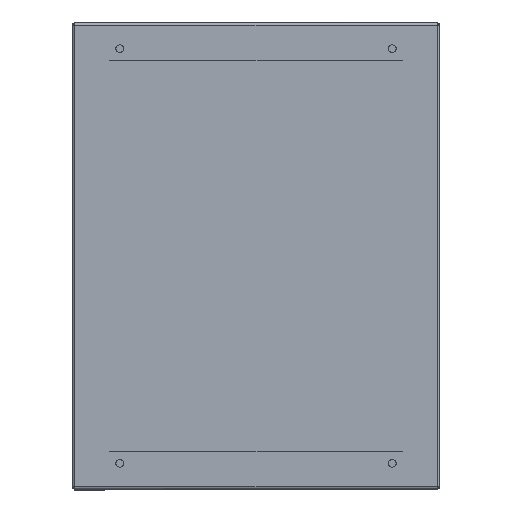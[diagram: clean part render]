
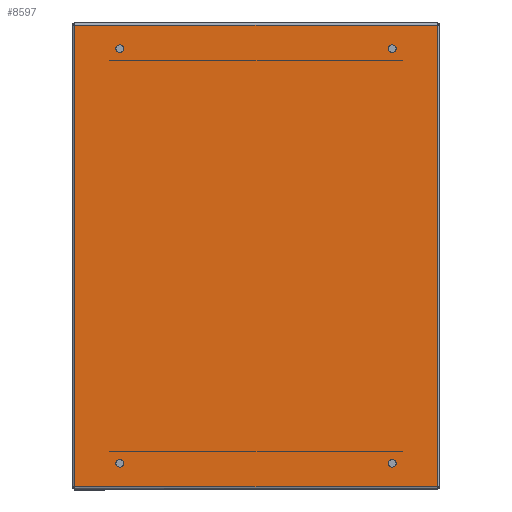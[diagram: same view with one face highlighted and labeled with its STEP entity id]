
A CAD part, front view. The second image highlights one B-rep face of the part: STEP entity #8597.
In plain terms, the highlighted planar face has unit normal (0, -1, 0).
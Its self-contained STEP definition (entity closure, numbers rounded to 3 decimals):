
#104 = EDGE_CURVE ( 'NONE', #5766, #7698, #6119, .T. ) ;
#111 = CARTESIAN_POINT ( 'NONE',  ( -153., 0., -194.7 ) ) ;
#202 = EDGE_LOOP ( 'NONE', ( #5607, #1297 ) ) ;
#265 = VERTEX_POINT ( 'NONE', #7462 ) ;
#296 = CARTESIAN_POINT ( 'NONE',  ( -118.25, 0., -175. ) ) ;
#309 = ORIENTED_EDGE ( 'NONE', *, *, #1028, .T. ) ;
#377 = CIRCLE ( 'NONE', #1368, 3.25 ) ;
#632 = CIRCLE ( 'NONE', #1597, 3.25 ) ;
#652 = DIRECTION ( 'NONE',  ( 0., 1., 0. ) ) ;
#761 = CARTESIAN_POINT ( 'NONE',  ( -111.75, 0., 175. ) ) ;
#1028 = EDGE_CURVE ( 'NONE', #10978, #5849, #2957, .T. ) ;
#1082 = EDGE_CURVE ( 'NONE', #7698, #5766, #632, .T. ) ;
#1092 = LINE ( 'NONE', #1419, #11186 ) ;
#1124 = EDGE_LOOP ( 'NONE', ( #3550, #3432 ) ) ;
#1255 = AXIS2_PLACEMENT_3D ( 'NONE', #11236, #1721, #3441 ) ;
#1273 = DIRECTION ( 'NONE',  ( -1., 0., 0. ) ) ;
#1297 = ORIENTED_EDGE ( 'NONE', *, *, #1082, .T. ) ;
#1368 = AXIS2_PLACEMENT_3D ( 'NONE', #1440, #6745, #4977 ) ;
#1380 = DIRECTION ( 'NONE',  ( -1., 0., 0. ) ) ;
#1419 = CARTESIAN_POINT ( 'NONE',  ( 153., 0., 194.7 ) ) ;
#1440 = CARTESIAN_POINT ( 'NONE',  ( 115., 0., -175. ) ) ;
#1552 = PLANE ( 'NONE',  #3714 ) ;
#1597 = AXIS2_PLACEMENT_3D ( 'NONE', #8875, #4330, #7091 ) ;
#1721 = DIRECTION ( 'NONE',  ( 0., 1., 0. ) ) ;
#1810 = VERTEX_POINT ( 'NONE', #4121 ) ;
#1957 = ORIENTED_EDGE ( 'NONE', *, *, #3666, .T. ) ;
#2023 = FACE_BOUND ( 'NONE', #202, .T. ) ;
#2106 = CIRCLE ( 'NONE', #5986, 3.25 ) ;
#2375 = ORIENTED_EDGE ( 'NONE', *, *, #8399, .T. ) ;
#2436 = DIRECTION ( 'NONE',  ( -1., 0., 0. ) ) ;
#2446 = DIRECTION ( 'NONE',  ( 0., 0., 1. ) ) ;
#2463 = CARTESIAN_POINT ( 'NONE',  ( -115., 0., -175. ) ) ;
#2957 = LINE ( 'NONE', #5987, #9910 ) ;
#3066 = DIRECTION ( 'NONE',  ( 1., 0., 0. ) ) ;
#3432 = ORIENTED_EDGE ( 'NONE', *, *, #5166, .T. ) ;
#3441 = DIRECTION ( 'NONE',  ( -1., 0., 0. ) ) ;
#3550 = ORIENTED_EDGE ( 'NONE', *, *, #11246, .T. ) ;
#3666 = EDGE_CURVE ( 'NONE', #9625, #8361, #7400, .T. ) ;
#3701 = VECTOR ( 'NONE', #4125, 1000. ) ;
#3714 = AXIS2_PLACEMENT_3D ( 'NONE', #7635, #4180, #2436 ) ;
#3904 = EDGE_LOOP ( 'NONE', ( #7824, #10591 ) ) ;
#3940 = EDGE_CURVE ( 'NONE', #8252, #8470, #2106, .T. ) ;
#4111 = DIRECTION ( 'NONE',  ( -1., 0., 0. ) ) ;
#4121 = CARTESIAN_POINT ( 'NONE',  ( 118.25, 0., 175. ) ) ;
#4125 = DIRECTION ( 'NONE',  ( 0., 0., 1. ) ) ;
#4171 = CARTESIAN_POINT ( 'NONE',  ( 153., 0., 194.7 ) ) ;
#4180 = DIRECTION ( 'NONE',  ( 0., -1., 0. ) ) ;
#4304 = CIRCLE ( 'NONE', #5402, 3.25 ) ;
#4330 = DIRECTION ( 'NONE',  ( 0., 1., 0. ) ) ;
#4335 = FACE_OUTER_BOUND ( 'NONE', #5630, .T. ) ;
#4732 = DIRECTION ( 'NONE',  ( 1., 0., 0. ) ) ;
#4977 = DIRECTION ( 'NONE',  ( -1., 0., 0. ) ) ;
#5166 = EDGE_CURVE ( 'NONE', #1810, #6136, #5951, .T. ) ;
#5402 = AXIS2_PLACEMENT_3D ( 'NONE', #2463, #652, #11137 ) ;
#5429 = AXIS2_PLACEMENT_3D ( 'NONE', #10723, #7274, #4732 ) ;
#5561 = AXIS2_PLACEMENT_3D ( 'NONE', #6290, #6130, #1273 ) ;
#5607 = ORIENTED_EDGE ( 'NONE', *, *, #104, .T. ) ;
#5630 = EDGE_LOOP ( 'NONE', ( #9467, #309, #6169, #10727 ) ) ;
#5760 = EDGE_CURVE ( 'NONE', #8470, #8252, #4304, .T. ) ;
#5766 = VERTEX_POINT ( 'NONE', #761 ) ;
#5832 = AXIS2_PLACEMENT_3D ( 'NONE', #9375, #8489, #4111 ) ;
#5849 = VERTEX_POINT ( 'NONE', #4171 ) ;
#5951 = CIRCLE ( 'NONE', #5832, 3.25 ) ;
#5956 = FACE_BOUND ( 'NONE', #1124, .T. ) ;
#5986 = AXIS2_PLACEMENT_3D ( 'NONE', #10152, #10192, #3066 ) ;
#5987 = CARTESIAN_POINT ( 'NONE',  ( 153., 0., -194.7 ) ) ;
#6066 = CARTESIAN_POINT ( 'NONE',  ( 118.25, 0., -175. ) ) ;
#6119 = CIRCLE ( 'NONE', #5429, 3.25 ) ;
#6130 = DIRECTION ( 'NONE',  ( 0., 1., 0. ) ) ;
#6136 = VERTEX_POINT ( 'NONE', #7267 ) ;
#6169 = ORIENTED_EDGE ( 'NONE', *, *, #11020, .T. ) ;
#6258 = CIRCLE ( 'NONE', #1255, 3.25 ) ;
#6290 = CARTESIAN_POINT ( 'NONE',  ( 115., 0., -175. ) ) ;
#6680 = CARTESIAN_POINT ( 'NONE',  ( 111.75, 0., -175. ) ) ;
#6697 = CARTESIAN_POINT ( 'NONE',  ( -153., 0., -194.7 ) ) ;
#6745 = DIRECTION ( 'NONE',  ( 0., 1., 0. ) ) ;
#7091 = DIRECTION ( 'NONE',  ( 1., 0., 0. ) ) ;
#7267 = CARTESIAN_POINT ( 'NONE',  ( 111.75, 0., 175. ) ) ;
#7274 = DIRECTION ( 'NONE',  ( 0., 1., 0. ) ) ;
#7400 = CIRCLE ( 'NONE', #5561, 3.25 ) ;
#7462 = CARTESIAN_POINT ( 'NONE',  ( -153., 0., -194.7 ) ) ;
#7486 = LINE ( 'NONE', #6697, #3701 ) ;
#7602 = FACE_BOUND ( 'NONE', #3904, .T. ) ;
#7635 = CARTESIAN_POINT ( 'NONE',  ( -153., 0., -196.7 ) ) ;
#7698 = VERTEX_POINT ( 'NONE', #11252 ) ;
#7824 = ORIENTED_EDGE ( 'NONE', *, *, #5760, .T. ) ;
#8067 = EDGE_CURVE ( 'NONE', #265, #10978, #9140, .T. ) ;
#8097 = EDGE_LOOP ( 'NONE', ( #2375, #1957 ) ) ;
#8252 = VERTEX_POINT ( 'NONE', #296 ) ;
#8361 = VERTEX_POINT ( 'NONE', #6680 ) ;
#8393 = VERTEX_POINT ( 'NONE', #8448 ) ;
#8399 = EDGE_CURVE ( 'NONE', #8361, #9625, #377, .T. ) ;
#8448 = CARTESIAN_POINT ( 'NONE',  ( -153., 0., 194.7 ) ) ;
#8470 = VERTEX_POINT ( 'NONE', #10276 ) ;
#8489 = DIRECTION ( 'NONE',  ( 0., 1., 0. ) ) ;
#8597 = ADVANCED_FACE ( 'NONE', ( #4335, #7602, #2023, #5956, #10472 ), #1552, .T. ) ;
#8763 = DIRECTION ( 'NONE',  ( 1., 0., 0. ) ) ;
#8875 = CARTESIAN_POINT ( 'NONE',  ( -115., 0., 175. ) ) ;
#9140 = LINE ( 'NONE', #111, #10754 ) ;
#9375 = CARTESIAN_POINT ( 'NONE',  ( 115., 0., 175. ) ) ;
#9467 = ORIENTED_EDGE ( 'NONE', *, *, #8067, .T. ) ;
#9625 = VERTEX_POINT ( 'NONE', #6066 ) ;
#9881 = CARTESIAN_POINT ( 'NONE',  ( 153., 0., -194.7 ) ) ;
#9910 = VECTOR ( 'NONE', #2446, 1000. ) ;
#10152 = CARTESIAN_POINT ( 'NONE',  ( -115., 0., -175. ) ) ;
#10192 = DIRECTION ( 'NONE',  ( 0., 1., 0. ) ) ;
#10276 = CARTESIAN_POINT ( 'NONE',  ( -111.75, 0., -175. ) ) ;
#10472 = FACE_BOUND ( 'NONE', #8097, .T. ) ;
#10591 = ORIENTED_EDGE ( 'NONE', *, *, #3940, .T. ) ;
#10723 = CARTESIAN_POINT ( 'NONE',  ( -115., 0., 175. ) ) ;
#10727 = ORIENTED_EDGE ( 'NONE', *, *, #11161, .F. ) ;
#10754 = VECTOR ( 'NONE', #8763, 1000. ) ;
#10978 = VERTEX_POINT ( 'NONE', #9881 ) ;
#11020 = EDGE_CURVE ( 'NONE', #5849, #8393, #1092, .T. ) ;
#11137 = DIRECTION ( 'NONE',  ( 1., 0., 0. ) ) ;
#11161 = EDGE_CURVE ( 'NONE', #265, #8393, #7486, .T. ) ;
#11186 = VECTOR ( 'NONE', #1380, 1000. ) ;
#11236 = CARTESIAN_POINT ( 'NONE',  ( 115., 0., 175. ) ) ;
#11246 = EDGE_CURVE ( 'NONE', #6136, #1810, #6258, .T. ) ;
#11252 = CARTESIAN_POINT ( 'NONE',  ( -118.25, 0., 175. ) ) ;
